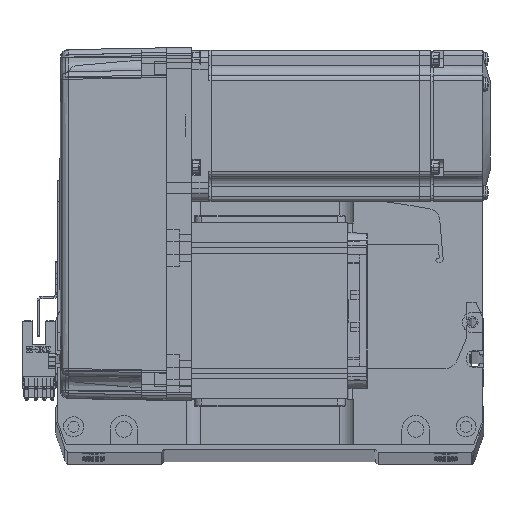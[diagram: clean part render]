
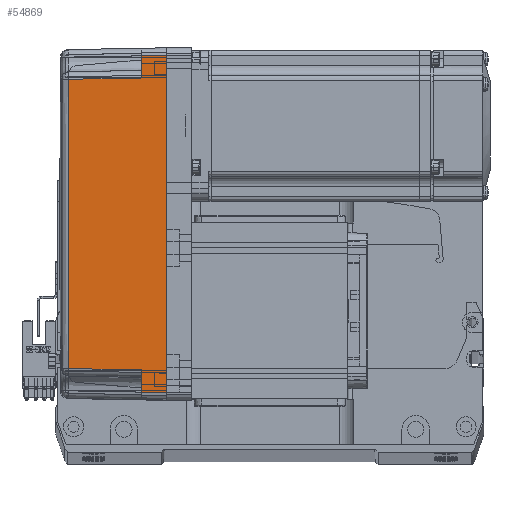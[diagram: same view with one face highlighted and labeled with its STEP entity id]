
A CAD part, top view. The second image highlights one B-rep face of the part: STEP entity #54869.
In plain terms, the highlighted planar face has unit normal (-0.018, 0, 1) as drawn and (0, 1, 0.017) by its records, which use the part's own axes.
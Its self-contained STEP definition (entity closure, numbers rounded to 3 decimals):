
#75 = CARTESIAN_POINT ( 'NONE',  ( 57.495, 35.32, 38.985 ) ) ;
#1032 = VECTOR ( 'NONE', #7484, 1000. ) ;
#2085 = ORIENTED_EDGE ( 'NONE', *, *, #59694, .F. ) ;
#2162 = CARTESIAN_POINT ( 'NONE',  ( 58., 35.825, 10. ) ) ;
#3210 = DIRECTION ( 'NONE',  ( 0., -0.017, 1. ) ) ;
#4156 = CARTESIAN_POINT ( 'NONE',  ( 70., 35.825, 10. ) ) ;
#4531 = CARTESIAN_POINT ( 'NONE',  ( -58., 35.825, 10. ) ) ;
#6090 = LINE ( 'NONE', #66650, #1032 ) ;
#6334 = EDGE_CURVE ( 'NONE', #68484, #21681, #63820, .T. ) ;
#7484 = DIRECTION ( 'NONE',  ( 0.017, -0.017, 1. ) ) ;
#8184 = EDGE_LOOP ( 'NONE', ( #33957, #36591, #33062, #13052, #15562, #8256, #64438, #2085 ) ) ;
#8256 = ORIENTED_EDGE ( 'NONE', *, *, #6334, .T. ) ;
#10099 = CARTESIAN_POINT ( 'NONE',  ( -19.165, 35.316, 39.181 ) ) ;
#13052 = ORIENTED_EDGE ( 'NONE', *, *, #39744, .T. ) ;
#14887 = VERTEX_POINT ( 'NONE', #64106 ) ;
#14910 = CARTESIAN_POINT ( 'NONE',  ( 67.001, 36.001, -0.052 ) ) ;
#14986 = VERTEX_POINT ( 'NONE', #52372 ) ;
#15562 = ORIENTED_EDGE ( 'NONE', *, *, #65889, .T. ) ;
#17809 = DIRECTION ( 'NONE',  ( 1., 0., 0. ) ) ;
#17913 = VERTEX_POINT ( 'NONE', #66459 ) ;
#18508 = CARTESIAN_POINT ( 'NONE',  ( 0., 36., 0. ) ) ;
#18590 = EDGE_CURVE ( 'NONE', #67147, #14887, #55115, .T. ) ;
#20721 = CARTESIAN_POINT ( 'NONE',  ( -57.495, 35.32, 38.985 ) ) ;
#21681 = VERTEX_POINT ( 'NONE', #52195 ) ;
#21823 = VECTOR ( 'NONE', #37804, 1000. ) ;
#24413 = LINE ( 'NONE', #33603, #28597 ) ;
#28146 = CARTESIAN_POINT ( 'NONE',  ( -67., 36., 0. ) ) ;
#28597 = VECTOR ( 'NONE', #44546, 1000. ) ;
#29130 = VECTOR ( 'NONE', #69666, 1000. ) ;
#30629 = VERTEX_POINT ( 'NONE', #4531 ) ;
#33062 = ORIENTED_EDGE ( 'NONE', *, *, #59150, .T. ) ;
#33603 = CARTESIAN_POINT ( 'NONE',  ( 70., 35.825, 10. ) ) ;
#33612 = DIRECTION ( 'NONE',  ( 0.017, -0.017, 1. ) ) ;
#33957 = ORIENTED_EDGE ( 'NONE', *, *, #18590, .T. ) ;
#34907 = DIRECTION ( 'NONE',  ( 0., 1., 0.017 ) ) ;
#36591 = ORIENTED_EDGE ( 'NONE', *, *, #48203, .T. ) ;
#37804 = DIRECTION ( 'NONE',  ( -0.017, -0.017, 1. ) ) ;
#39689 = VECTOR ( 'NONE', #67732, 1000. ) ;
#39744 = EDGE_CURVE ( 'NONE', #14986, #17913, #64486, .T. ) ;
#40671 = VECTOR ( 'NONE', #33612, 1000. ) ;
#40860 = PLANE ( 'NONE',  #60816 ) ;
#42459 = LINE ( 'NONE', #18508, #62789 ) ;
#44546 = DIRECTION ( 'NONE',  ( 1., 0., 0. ) ) ;
#46784 = CARTESIAN_POINT ( 'NONE',  ( 70., 36., 0. ) ) ;
#48203 = EDGE_CURVE ( 'NONE', #14887, #30629, #24413, .T. ) ;
#49324 = CARTESIAN_POINT ( 'NONE',  ( 19.165, 35.316, 39.181 ) ) ;
#50204 = CARTESIAN_POINT ( 'NONE',  ( 67., 36., 0. ) ) ;
#52195 = CARTESIAN_POINT ( 'NONE',  ( 66.826, 35.825, 10. ) ) ;
#52372 = CARTESIAN_POINT ( 'NONE',  ( -57.495, 35.32, 38.985 ) ) ;
#53155 = FACE_OUTER_BOUND ( 'NONE', #8184, .T. ) ;
#54176 = VERTEX_POINT ( 'NONE', #50204 ) ;
#54462 = EDGE_CURVE ( 'NONE', #54176, #21681, #64993, .T. ) ;
#54869 = ADVANCED_FACE ( 'NONE', ( #53155 ), #40860, .T. ) ;
#55115 = LINE ( 'NONE', #28146, #40671 ) ;
#59150 = EDGE_CURVE ( 'NONE', #30629, #14986, #6090, .T. ) ;
#59694 = EDGE_CURVE ( 'NONE', #67147, #54176, #42459, .T. ) ;
#60816 = AXIS2_PLACEMENT_3D ( 'NONE', #46784, #34907, #3210 ) ;
#62318 = CARTESIAN_POINT ( 'NONE',  ( 57.495, 35.32, 38.985 ) ) ;
#62789 = VECTOR ( 'NONE', #17809, 1000. ) ;
#63820 = LINE ( 'NONE', #4156, #29130 ) ;
#64106 = CARTESIAN_POINT ( 'NONE',  ( -66.826, 35.825, 10. ) ) ;
#64438 = ORIENTED_EDGE ( 'NONE', *, *, #54462, .F. ) ;
#64486 = B_SPLINE_CURVE_WITH_KNOTS ( 'NONE', 3,
 ( #20721, #10099, #49324, #75 ),
 .UNSPECIFIED., .F., .F.,
 ( 4, 4 ),
 ( 0., 1. ),
 .UNSPECIFIED. ) ;
#64685 = CARTESIAN_POINT ( 'NONE',  ( -67., 36., 0. ) ) ;
#64993 = LINE ( 'NONE', #14910, #21823 ) ;
#65879 = LINE ( 'NONE', #62318, #39689 ) ;
#65889 = EDGE_CURVE ( 'NONE', #17913, #68484, #65879, .T. ) ;
#66459 = CARTESIAN_POINT ( 'NONE',  ( 57.495, 35.32, 38.985 ) ) ;
#66650 = CARTESIAN_POINT ( 'NONE',  ( -58., 35.825, 10. ) ) ;
#67147 = VERTEX_POINT ( 'NONE', #64685 ) ;
#67732 = DIRECTION ( 'NONE',  ( 0.017, 0.017, -1. ) ) ;
#68484 = VERTEX_POINT ( 'NONE', #2162 ) ;
#69666 = DIRECTION ( 'NONE',  ( 1., 0., 0. ) ) ;
